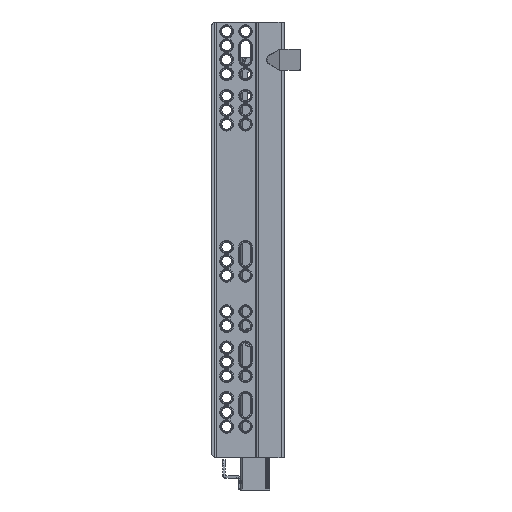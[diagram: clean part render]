
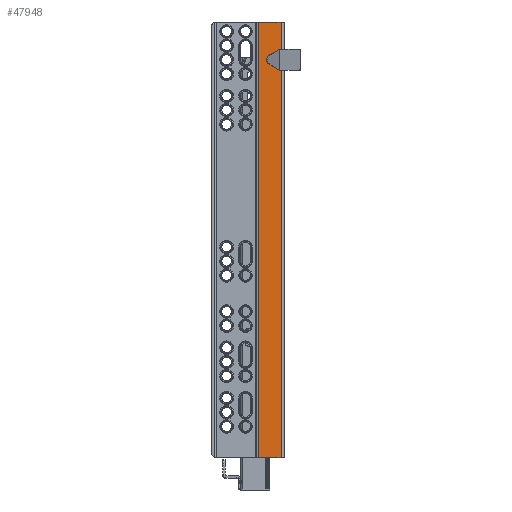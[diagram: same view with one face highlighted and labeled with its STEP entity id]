
A CAD part, left-side view. The second image highlights one B-rep face of the part: STEP entity #47948.
In plain terms, the highlighted planar face has unit normal (-1, 0, 0) as drawn and (1, 0, 0) by its records, which use the part's own axes.
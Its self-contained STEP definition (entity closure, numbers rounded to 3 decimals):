
#369 = DIRECTION ( 'NONE',  ( 0., 0., -1. ) ) ;
#514 = EDGE_CURVE ( 'NONE', #45902, #29189, #18791, .T. ) ;
#590 = VERTEX_POINT ( 'NONE', #21382 ) ;
#942 = CARTESIAN_POINT ( 'NONE',  ( 35.7, -9.9, 541. ) ) ;
#982 = LINE ( 'NONE', #942, #27624 ) ;
#1638 = DIRECTION ( 'NONE',  ( 0., 1., 0. ) ) ;
#1932 = ORIENTED_EDGE ( 'NONE', *, *, #26801, .T. ) ;
#2551 = DIRECTION ( 'NONE',  ( 0., 0.902, -0.432 ) ) ;
#2853 = CARTESIAN_POINT ( 'NONE',  ( 35.7, -9.9, 29.169 ) ) ;
#3946 = LINE ( 'NONE', #32033, #22799 ) ;
#4089 = VERTEX_POINT ( 'NONE', #23532 ) ;
#4304 = ORIENTED_EDGE ( 'NONE', *, *, #44770, .T. ) ;
#4396 = EDGE_CURVE ( 'NONE', #45902, #32650, #3946, .T. ) ;
#4843 = ORIENTED_EDGE ( 'NONE', *, *, #16663, .T. ) ;
#6277 = CARTESIAN_POINT ( 'NONE',  ( 35.7, -2.868, 24. ) ) ;
#8080 = ORIENTED_EDGE ( 'NONE', *, *, #514, .T. ) ;
#8851 = FACE_OUTER_BOUND ( 'NONE', #49075, .T. ) ;
#10332 = DIRECTION ( 'NONE',  ( 0., 0., -1. ) ) ;
#10487 = VERTEX_POINT ( 'NONE', #2853 ) ;
#11126 = VECTOR ( 'NONE', #34021, 1000. ) ;
#12356 = CARTESIAN_POINT ( 'NONE',  ( 35.7, 4.6, 277. ) ) ;
#12645 = CARTESIAN_POINT ( 'NONE',  ( 35.7, -3.519, 21.886 ) ) ;
#12812 = CARTESIAN_POINT ( 'NONE',  ( 35.7, 4.6, 541. ) ) ;
#13087 = ORIENTED_EDGE ( 'NONE', *, *, #26511, .T. ) ;
#13114 = VECTOR ( 'NONE', #43854, 1000. ) ;
#14690 = CARTESIAN_POINT ( 'NONE',  ( 35.7, -4.636, 26.649 ) ) ;
#15331 = CARTESIAN_POINT ( 'NONE',  ( 35.7, -197.454, 118.962 ) ) ;
#15833 = CARTESIAN_POINT ( 'NONE',  ( 35.7, 205.273, 121.847 ) ) ;
#16253 = ORIENTED_EDGE ( 'NONE', *, *, #33939, .T. ) ;
#16370 = CARTESIAN_POINT ( 'NONE',  ( 35.7, -3.519, 26.114 ) ) ;
#16663 = EDGE_CURVE ( 'NONE', #29189, #10487, #982, .T. ) ;
#17529 = DIRECTION ( 'NONE',  ( 0., 0., -1. ) ) ;
#17846 = AXIS2_PLACEMENT_3D ( 'NONE', #12812, #40831, #19272 ) ;
#18791 = LINE ( 'NONE', #12356, #11126 ) ;
#19272 = DIRECTION ( 'NONE',  ( 0., 1., 0. ) ) ;
#21112 = ORIENTED_EDGE ( 'NONE', *, *, #4396, .F. ) ;
#21382 = CARTESIAN_POINT ( 'NONE',  ( 35.7, -4.636, 21.351 ) ) ;
#22799 = VECTOR ( 'NONE', #10332, 1000. ) ;
#22815 = CARTESIAN_POINT ( 'NONE',  ( 35.7, -2.868, 24. ) ) ;
#23192 = EDGE_CURVE ( 'NONE', #33894, #590, #49622, .T. ) ;
#23265 = CARTESIAN_POINT ( 'NONE',  ( 35.7, 4.6, 0. ) ) ;
#23532 = CARTESIAN_POINT ( 'NONE',  ( 35.7, -9.9, 18.831 ) ) ;
#24445 = ORIENTED_EDGE ( 'NONE', *, *, #23192, .T. ) ;
#24780 = CARTESIAN_POINT ( 'NONE',  ( 35.7, -2.868, 24. ) ) ;
#26511 = EDGE_CURVE ( 'NONE', #590, #4089, #37460, .T. ) ;
#26801 = EDGE_CURVE ( 'NONE', #29839, #32650, #44871, .T. ) ;
#27132 = CARTESIAN_POINT ( 'NONE',  ( 35.7, -9.9, 277. ) ) ;
#27411 = ORIENTED_EDGE ( 'NONE', *, *, #48832, .T. ) ;
#27624 = VECTOR ( 'NONE', #369, 1000. ) ;
#27938 = CARTESIAN_POINT ( 'NONE',  ( 35.7, -9.9, 541. ) ) ;
#29189 = VERTEX_POINT ( 'NONE', #27132 ) ;
#29345 = VECTOR ( 'NONE', #1638, 1000. ) ;
#29839 = VERTEX_POINT ( 'NONE', #36911 ) ;
#30107 = VERTEX_POINT ( 'NONE', #14690 ) ;
#32033 = CARTESIAN_POINT ( 'NONE',  ( 35.7, 4.559, 541. ) ) ;
#32466 = LINE ( 'NONE', #27938, #49685 ) ;
#32475 =( BOUNDED_CURVE ( )  B_SPLINE_CURVE ( 3, ( #37997, #16370, #44410, #22815 ),
 .UNSPECIFIED., .F., .F. ) 
 B_SPLINE_CURVE_WITH_KNOTS ( ( 4, 4 ),
 ( 5.201, 6.283 ),
 .UNSPECIFIED. ) 
 CURVE ( )  GEOMETRIC_REPRESENTATION_ITEM ( )  RATIONAL_B_SPLINE_CURVE ( ( 1., 0.905, 0.905, 1. ) ) 
 REPRESENTATION_ITEM ( '' )  );
#32650 = VERTEX_POINT ( 'NONE', #40932 ) ;
#33894 = VERTEX_POINT ( 'NONE', #24780 ) ;
#33939 = EDGE_CURVE ( 'NONE', #4089, #29839, #32466, .T. ) ;
#34021 = DIRECTION ( 'NONE',  ( 0., -1., 0. ) ) ;
#34330 = CARTESIAN_POINT ( 'NONE',  ( 35.7, -2.868, 22.862 ) ) ;
#34483 = PLANE ( 'NONE',  #17846 ) ;
#36668 = VECTOR ( 'NONE', #2551, 1000. ) ;
#36911 = CARTESIAN_POINT ( 'NONE',  ( 35.7, -9.9, 0. ) ) ;
#37460 = LINE ( 'NONE', #15833, #13114 ) ;
#37997 = CARTESIAN_POINT ( 'NONE',  ( 35.7, -4.636, 26.649 ) ) ;
#40659 = CARTESIAN_POINT ( 'NONE',  ( 35.7, -4.636, 21.351 ) ) ;
#40831 = DIRECTION ( 'NONE',  ( 1., 0., 0. ) ) ;
#40932 = CARTESIAN_POINT ( 'NONE',  ( 35.7, 4.559, 0. ) ) ;
#43340 = LINE ( 'NONE', #15331, #36668 ) ;
#43854 = DIRECTION ( 'NONE',  ( 0., -0.902, -0.432 ) ) ;
#44410 = CARTESIAN_POINT ( 'NONE',  ( 35.7, -2.868, 25.138 ) ) ;
#44770 = EDGE_CURVE ( 'NONE', #30107, #33894, #32475, .T. ) ;
#44871 = LINE ( 'NONE', #23265, #29345 ) ;
#45902 = VERTEX_POINT ( 'NONE', #48720 ) ;
#47948 = ADVANCED_FACE ( 'NONE', ( #8851 ), #34483, .T. ) ;
#48720 = CARTESIAN_POINT ( 'NONE',  ( 35.7, 4.559, 277. ) ) ;
#48832 = EDGE_CURVE ( 'NONE', #10487, #30107, #43340, .T. ) ;
#49075 = EDGE_LOOP ( 'NONE', ( #8080, #4843, #27411, #4304, #24445, #13087, #16253, #1932, #21112 ) ) ;
#49622 =( BOUNDED_CURVE ( )  B_SPLINE_CURVE ( 3, ( #6277, #34330, #12645, #40659 ),
 .UNSPECIFIED., .F., .F. ) 
 B_SPLINE_CURVE_WITH_KNOTS ( ( 4, 4 ),
 ( 0., 1.082 ),
 .UNSPECIFIED. ) 
 CURVE ( )  GEOMETRIC_REPRESENTATION_ITEM ( )  RATIONAL_B_SPLINE_CURVE ( ( 1., 0.905, 0.905, 1. ) ) 
 REPRESENTATION_ITEM ( '' )  );
#49685 = VECTOR ( 'NONE', #17529, 1000. ) ;
